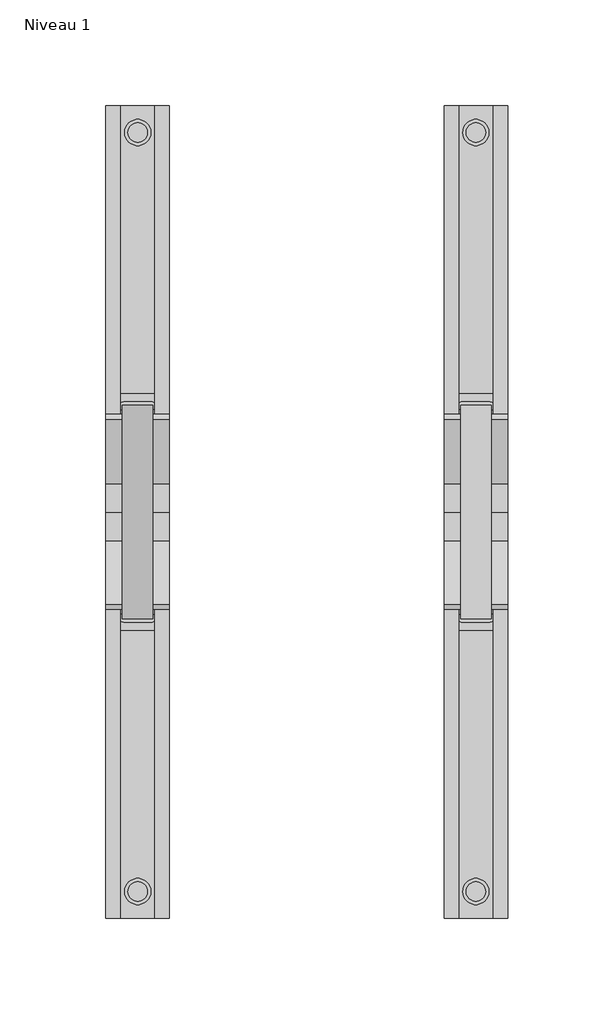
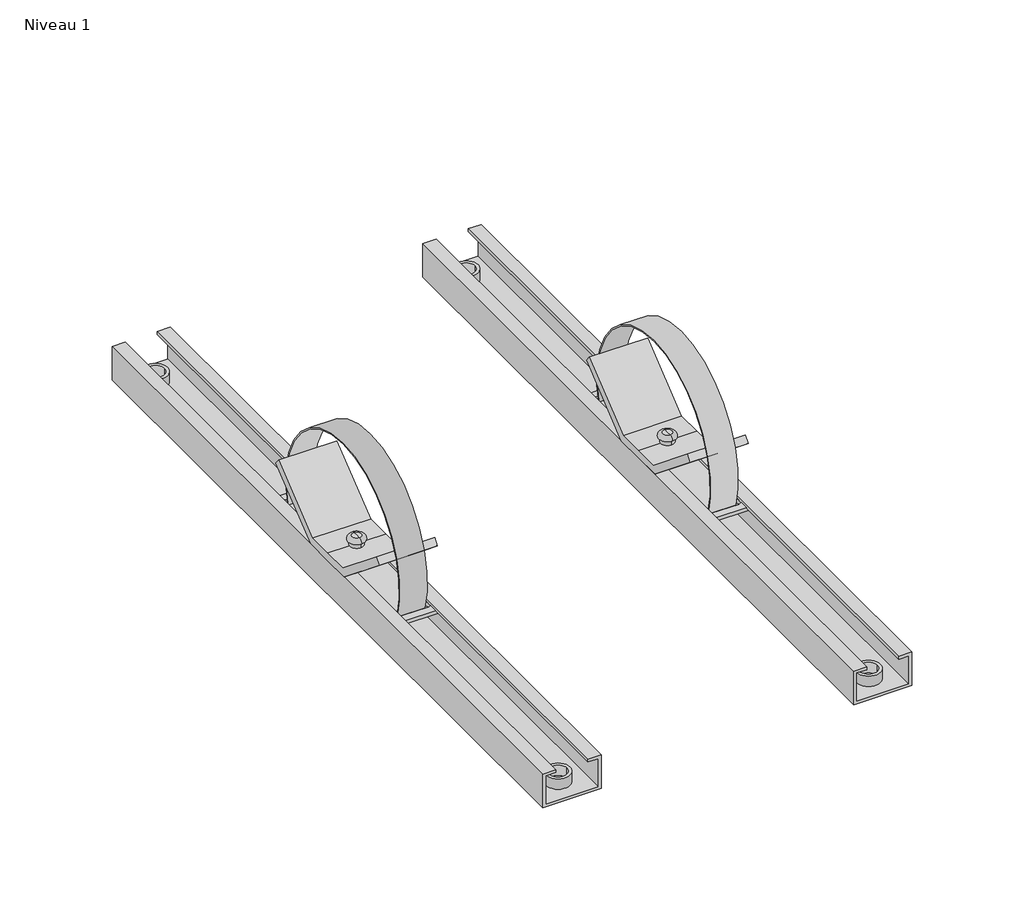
# One storey: 1 proxy.
"""IFC4 building model written with IfcOpenShell, lengths in millimetres."""

from ifc_helpers import new_model, si_unit, origin, place, context, project, spatial, transform, mapped, element, save
from components import electrical_equipment_cf1926ac

model = new_model("IFC4")

# Units and contexts
model_context = context("Model", 3, world=origin())
ifc_project = project(units=[si_unit("LENGTHUNIT", "METRE", prefix="MILLI")], contexts=[model_context])

# Site, building, storey
site = spatial("IfcSite", under=ifc_project)
building = spatial("IfcBuilding", under=site)
storey = spatial("IfcBuildingStorey", under=building, Name="Niveau 1", Elevation=0.0)

# Proxy
placement = place(None, origin())
electrical_equipment_shape = electrical_equipment_cf1926ac(model_context)
element("IfcBuildingElementProxy", 1, Name="A KIT SYN MP : A KIT SYN MP", ObjectType="A KIT SYN MP : A KIT SYN MP", at=placement, inside=storey, context=model_context, shape_type="MappedRepresentation", body=[
    mapped(electrical_equipment_shape, transform((-6800.9763642, 6188.6416878, 0.0), x_axis=(1.0, 0.0, 0.0), y_axis=(0.0, 1.0, 0.0), z_axis=(0.0, 0.0, 1.0))),
])

save(model, "model.ifc")
